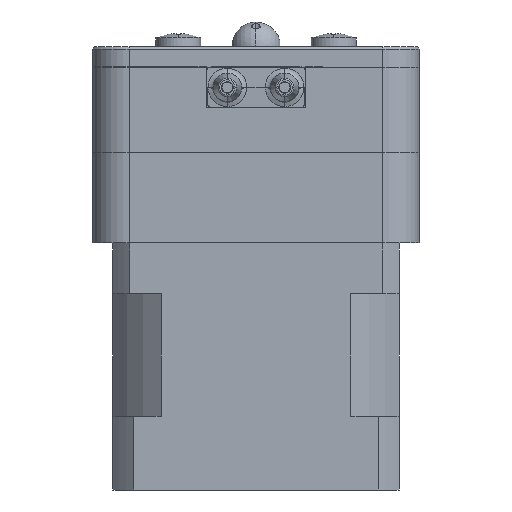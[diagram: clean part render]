
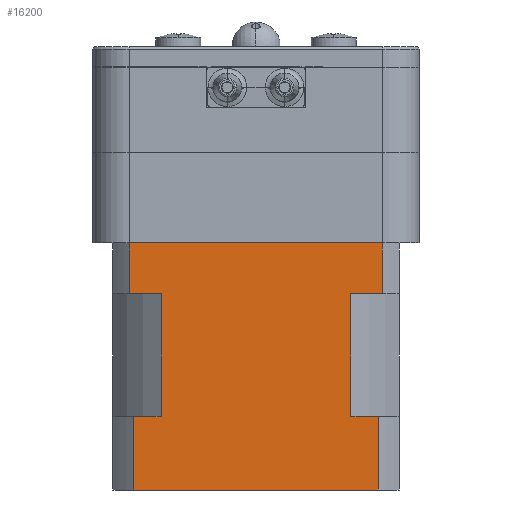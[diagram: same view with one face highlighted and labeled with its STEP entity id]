
A CAD part, front view. The second image highlights one B-rep face of the part: STEP entity #16200.
In plain terms, the highlighted planar face has unit normal (0, -1, 0) as drawn and (0, 1, 0) by its records, which use the part's own axes.
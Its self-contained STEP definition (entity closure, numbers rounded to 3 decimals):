
#114 = DIRECTION ( 'NONE',  ( -1., 0., 0. ) ) ;
#426 = VERTEX_POINT ( 'NONE', #2119 ) ;
#654 = CARTESIAN_POINT ( 'NONE',  ( -14.925, 17.5, 9. ) ) ;
#881 = ORIENTED_EDGE ( 'NONE', *, *, #6043, .T. ) ;
#913 = VECTOR ( 'NONE', #1628, 1000. ) ;
#940 = CARTESIAN_POINT ( 'NONE',  ( -14.925, 17.5, 0. ) ) ;
#1061 = DIRECTION ( 'NONE',  ( 0., 0., 1. ) ) ;
#1109 = LINE ( 'NONE', #6898, #16366 ) ;
#1296 = VECTOR ( 'NONE', #114, 1000. ) ;
#1420 = VECTOR ( 'NONE', #2782, 1000. ) ;
#1628 = DIRECTION ( 'NONE',  ( 0., 0., -1. ) ) ;
#1777 = ORIENTED_EDGE ( 'NONE', *, *, #5054, .F. ) ;
#1795 = VECTOR ( 'NONE', #7826, 1000. ) ;
#2119 = CARTESIAN_POINT ( 'NONE',  ( 15.459, 17.5, 30.2 ) ) ;
#2164 = EDGE_CURVE ( 'NONE', #16529, #13725, #4217, .T. ) ;
#2252 = CARTESIAN_POINT ( 'NONE',  ( -15.459, 17.5, 30.2 ) ) ;
#2273 = LINE ( 'NONE', #654, #12022 ) ;
#2400 = FACE_OUTER_BOUND ( 'NONE', #5514, .T. ) ;
#2728 = VERTEX_POINT ( 'NONE', #940 ) ;
#2782 = DIRECTION ( 'NONE',  ( 0., 0., -1. ) ) ;
#2829 = CARTESIAN_POINT ( 'NONE',  ( -11.608, 17.5, 24. ) ) ;
#2899 = EDGE_CURVE ( 'NONE', #2728, #17365, #16476, .T. ) ;
#3190 = CARTESIAN_POINT ( 'NONE',  ( 11.608, 17.5, 24. ) ) ;
#3273 = ORIENTED_EDGE ( 'NONE', *, *, #8387, .F. ) ;
#3462 = LINE ( 'NONE', #10511, #1795 ) ;
#3861 = LINE ( 'NONE', #10816, #6619 ) ;
#3919 = VERTEX_POINT ( 'NONE', #2829 ) ;
#4059 = CARTESIAN_POINT ( 'NONE',  ( -14.925, 17.5, 0. ) ) ;
#4149 = EDGE_CURVE ( 'NONE', #13725, #5116, #2273, .T. ) ;
#4217 = LINE ( 'NONE', #7148, #913 ) ;
#4239 = DIRECTION ( 'NONE',  ( 1., 0., 0. ) ) ;
#4512 = EDGE_CURVE ( 'NONE', #3919, #5973, #16208, .T. ) ;
#4685 = DIRECTION ( 'NONE',  ( 0., 0., -1. ) ) ;
#4936 = LINE ( 'NONE', #14054, #8186 ) ;
#5054 = EDGE_CURVE ( 'NONE', #426, #16764, #3462, .T. ) ;
#5083 = CARTESIAN_POINT ( 'NONE',  ( 14.925, 17.5, 0. ) ) ;
#5116 = VERTEX_POINT ( 'NONE', #15968 ) ;
#5243 = CARTESIAN_POINT ( 'NONE',  ( 11.608, 17.5, 9. ) ) ;
#5514 = EDGE_LOOP ( 'NONE', ( #5996, #3273, #881, #9718, #9311, #16096, #1777, #16976, #11650, #13423, #14840, #8395 ) ) ;
#5707 = EDGE_CURVE ( 'NONE', #426, #17284, #1109, .T. ) ;
#5903 = EDGE_CURVE ( 'NONE', #16764, #5973, #17165, .T. ) ;
#5973 = VERTEX_POINT ( 'NONE', #6005 ) ;
#5993 = VECTOR ( 'NONE', #4239, 1000. ) ;
#5996 = ORIENTED_EDGE ( 'NONE', *, *, #2899, .F. ) ;
#6005 = CARTESIAN_POINT ( 'NONE',  ( -15.459, 17.5, 24. ) ) ;
#6043 = EDGE_CURVE ( 'NONE', #16891, #14133, #3861, .T. ) ;
#6189 = CARTESIAN_POINT ( 'NONE',  ( -14.925, 17.5, 9. ) ) ;
#6475 = CARTESIAN_POINT ( 'NONE',  ( -15.459, 17.5, 30.2 ) ) ;
#6541 = LINE ( 'NONE', #11992, #9273 ) ;
#6546 = DIRECTION ( 'NONE',  ( 0., 0., -1. ) ) ;
#6619 = VECTOR ( 'NONE', #9551, 1000. ) ;
#6629 = CARTESIAN_POINT ( 'NONE',  ( -11.608, 17.5, 9. ) ) ;
#6898 = CARTESIAN_POINT ( 'NONE',  ( 15.459, 17.5, 30.2 ) ) ;
#7148 = CARTESIAN_POINT ( 'NONE',  ( 11.608, 17.5, 24. ) ) ;
#7653 = PLANE ( 'NONE',  #16373 ) ;
#7826 = DIRECTION ( 'NONE',  ( -1., 0., 0. ) ) ;
#7838 = CARTESIAN_POINT ( 'NONE',  ( -14.925, 17.5, 9. ) ) ;
#8186 = VECTOR ( 'NONE', #4685, 1000. ) ;
#8387 = EDGE_CURVE ( 'NONE', #16891, #2728, #4936, .T. ) ;
#8395 = ORIENTED_EDGE ( 'NONE', *, *, #11136, .T. ) ;
#9273 = VECTOR ( 'NONE', #13508, 1000. ) ;
#9311 = ORIENTED_EDGE ( 'NONE', *, *, #4512, .T. ) ;
#9551 = DIRECTION ( 'NONE',  ( 1., 0., 0. ) ) ;
#9718 = ORIENTED_EDGE ( 'NONE', *, *, #9732, .F. ) ;
#9732 = EDGE_CURVE ( 'NONE', #3919, #14133, #6541, .T. ) ;
#9829 = EDGE_CURVE ( 'NONE', #17284, #16529, #12343, .T. ) ;
#10511 = CARTESIAN_POINT ( 'NONE',  ( 15.459, 17.5, 30.2 ) ) ;
#10816 = CARTESIAN_POINT ( 'NONE',  ( -14.925, 17.5, 9. ) ) ;
#11136 = EDGE_CURVE ( 'NONE', #5116, #17365, #13316, .T. ) ;
#11650 = ORIENTED_EDGE ( 'NONE', *, *, #9829, .T. ) ;
#11992 = CARTESIAN_POINT ( 'NONE',  ( -11.608, 17.5, 24. ) ) ;
#12022 = VECTOR ( 'NONE', #14506, 1000. ) ;
#12035 = VECTOR ( 'NONE', #13422, 1000. ) ;
#12261 = CARTESIAN_POINT ( 'NONE',  ( 15.459, 17.5, 24. ) ) ;
#12343 = LINE ( 'NONE', #12261, #1296 ) ;
#13139 = DIRECTION ( 'NONE',  ( 0., 0., -1. ) ) ;
#13316 = LINE ( 'NONE', #17508, #1420 ) ;
#13422 = DIRECTION ( 'NONE',  ( -1., 0., 0. ) ) ;
#13423 = ORIENTED_EDGE ( 'NONE', *, *, #2164, .T. ) ;
#13508 = DIRECTION ( 'NONE',  ( 0., 0., -1. ) ) ;
#13725 = VERTEX_POINT ( 'NONE', #5243 ) ;
#14054 = CARTESIAN_POINT ( 'NONE',  ( -14.925, 17.5, 9. ) ) ;
#14133 = VERTEX_POINT ( 'NONE', #6629 ) ;
#14367 = DIRECTION ( 'NONE',  ( 0., 1., 0. ) ) ;
#14506 = DIRECTION ( 'NONE',  ( 1., 0., 0. ) ) ;
#14547 = CARTESIAN_POINT ( 'NONE',  ( 15.459, 17.5, 24. ) ) ;
#14658 = VECTOR ( 'NONE', #13139, 1000. ) ;
#14840 = ORIENTED_EDGE ( 'NONE', *, *, #4149, .T. ) ;
#15968 = CARTESIAN_POINT ( 'NONE',  ( 14.925, 17.5, 9. ) ) ;
#16096 = ORIENTED_EDGE ( 'NONE', *, *, #5903, .F. ) ;
#16200 = ADVANCED_FACE ( 'NONE', ( #2400 ), #7653, .T. ) ;
#16208 = LINE ( 'NONE', #17360, #12035 ) ;
#16366 = VECTOR ( 'NONE', #6546, 1000. ) ;
#16373 = AXIS2_PLACEMENT_3D ( 'NONE', #7838, #14367, #1061 ) ;
#16476 = LINE ( 'NONE', #4059, #5993 ) ;
#16529 = VERTEX_POINT ( 'NONE', #3190 ) ;
#16764 = VERTEX_POINT ( 'NONE', #6475 ) ;
#16891 = VERTEX_POINT ( 'NONE', #6189 ) ;
#16976 = ORIENTED_EDGE ( 'NONE', *, *, #5707, .T. ) ;
#17165 = LINE ( 'NONE', #2252, #14658 ) ;
#17284 = VERTEX_POINT ( 'NONE', #14547 ) ;
#17360 = CARTESIAN_POINT ( 'NONE',  ( 15.459, 17.5, 24. ) ) ;
#17365 = VERTEX_POINT ( 'NONE', #5083 ) ;
#17508 = CARTESIAN_POINT ( 'NONE',  ( 14.925, 17.5, 9. ) ) ;
